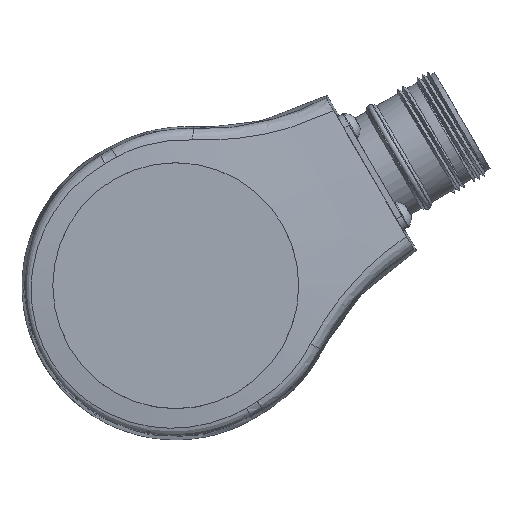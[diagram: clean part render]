
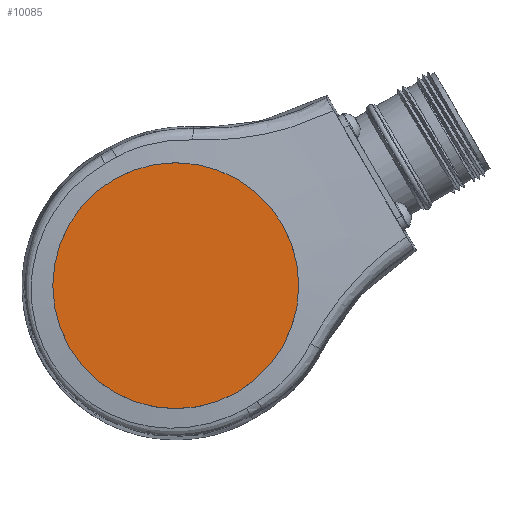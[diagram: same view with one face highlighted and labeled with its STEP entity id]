
A CAD part, top view. The second image highlights one B-rep face of the part: STEP entity #10085.
In plain terms, the highlighted planar face has unit normal (0, 0, 1).
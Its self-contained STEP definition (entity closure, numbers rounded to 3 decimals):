
#1762=ORIENTED_EDGE('',*,*,#3088,.T.);
#3088=EDGE_CURVE('',#3903,#3903,#4484,.T.);
#3903=VERTEX_POINT('',#14219);
#4484=CIRCLE('',#10761,23.794);
#5058=EDGE_LOOP('',(#1762));
#5850=FACE_BOUND('',#5058,.T.);
#6350=PLANE('',#10769);
#10085=ADVANCED_FACE('',(#5850),#6350,.T.);
#10761=AXIS2_PLACEMENT_3D('',#14218,#12066,#12067);
#10769=AXIS2_PLACEMENT_3D('',#15882,#12082,#12083);
#12066=DIRECTION('',(0.,0.,1.));
#12067=DIRECTION('',(-0.5,0.866,0.));
#12082=DIRECTION('',(0.,0.,1.));
#12083=DIRECTION('',(-0.5,0.866,0.));
#14218=CARTESIAN_POINT('',(0.,0.,42.));
#14219=CARTESIAN_POINT('',(-11.897,20.606,42.));
#15882=CARTESIAN_POINT('',(0.,0.,42.));
